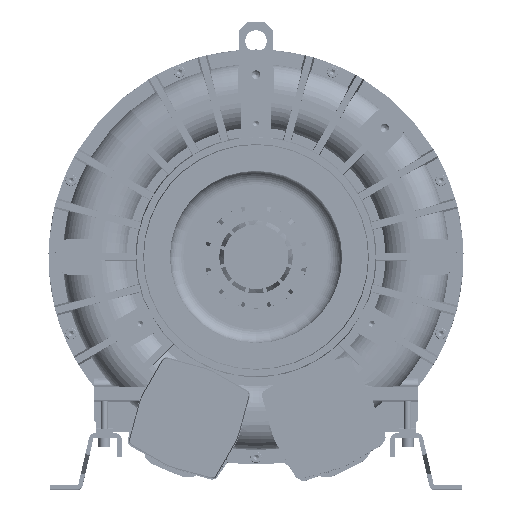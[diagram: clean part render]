
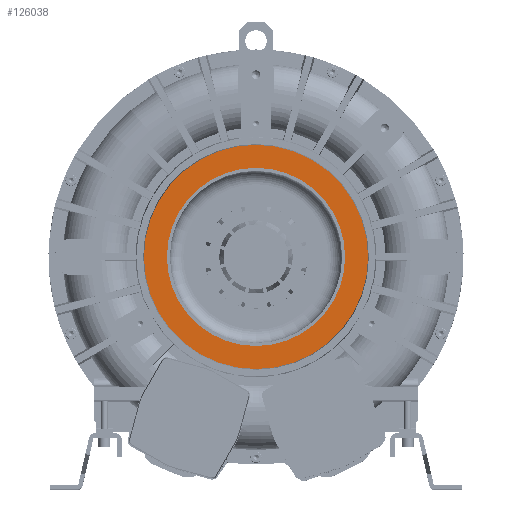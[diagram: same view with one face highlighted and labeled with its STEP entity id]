
A CAD part, top view. The second image highlights one B-rep face of the part: STEP entity #126038.
In plain terms, the highlighted planar face has unit normal (0, 0, 1).
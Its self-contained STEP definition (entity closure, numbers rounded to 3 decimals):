
#4754 = EDGE_LOOP ( 'NONE', ( #123541 ) ) ;
#6064 = DIRECTION ( 'NONE',  ( 0., 0., 1. ) ) ;
#15930 = CARTESIAN_POINT ( 'NONE',  ( 0., 0., 196.5 ) ) ;
#22215 = FACE_BOUND ( 'NONE', #225399, .T. ) ;
#38407 = VERTEX_POINT ( 'NONE', #98081 ) ;
#56254 = AXIS2_PLACEMENT_3D ( 'NONE', #223316, #6064, #153667 ) ;
#59520 = EDGE_CURVE ( 'NONE', #38407, #38407, #189811, .T. ) ;
#70251 = EDGE_CURVE ( 'NONE', #155408, #155408, #79561, .T. ) ;
#70708 = AXIS2_PLACEMENT_3D ( 'NONE', #227141, #139261, #208824 ) ;
#79561 = CIRCLE ( 'NONE', #56254, 130.194 ) ;
#80987 = ORIENTED_EDGE ( 'NONE', *, *, #59520, .F. ) ;
#98081 = CARTESIAN_POINT ( 'NONE',  ( 103.5, 0., 196.5 ) ) ;
#100481 = CARTESIAN_POINT ( 'NONE',  ( -130.194, 0., 196.5 ) ) ;
#109880 = DIRECTION ( 'NONE',  ( 1., 0., 0. ) ) ;
#123541 = ORIENTED_EDGE ( 'NONE', *, *, #70251, .T. ) ;
#126038 = ADVANCED_FACE ( 'NONE', ( #22215, #211232 ), #152703, .F. ) ;
#139261 = DIRECTION ( 'NONE',  ( 0., 0., -1. ) ) ;
#152703 = PLANE ( 'NONE',  #70708 ) ;
#153667 = DIRECTION ( 'NONE',  ( -1., 0., 0. ) ) ;
#155408 = VERTEX_POINT ( 'NONE', #100481 ) ;
#165972 = DIRECTION ( 'NONE',  ( 0., 0., 1. ) ) ;
#189811 = CIRCLE ( 'NONE', #220975, 103.5 ) ;
#208824 = DIRECTION ( 'NONE',  ( -1., 0., 0. ) ) ;
#211232 = FACE_OUTER_BOUND ( 'NONE', #4754, .T. ) ;
#220975 = AXIS2_PLACEMENT_3D ( 'NONE', #15930, #165972, #109880 ) ;
#223316 = CARTESIAN_POINT ( 'NONE',  ( 0., 0., 196.5 ) ) ;
#225399 = EDGE_LOOP ( 'NONE', ( #80987 ) ) ;
#227141 = CARTESIAN_POINT ( 'NONE',  ( 0., 0., 196.5 ) ) ;
